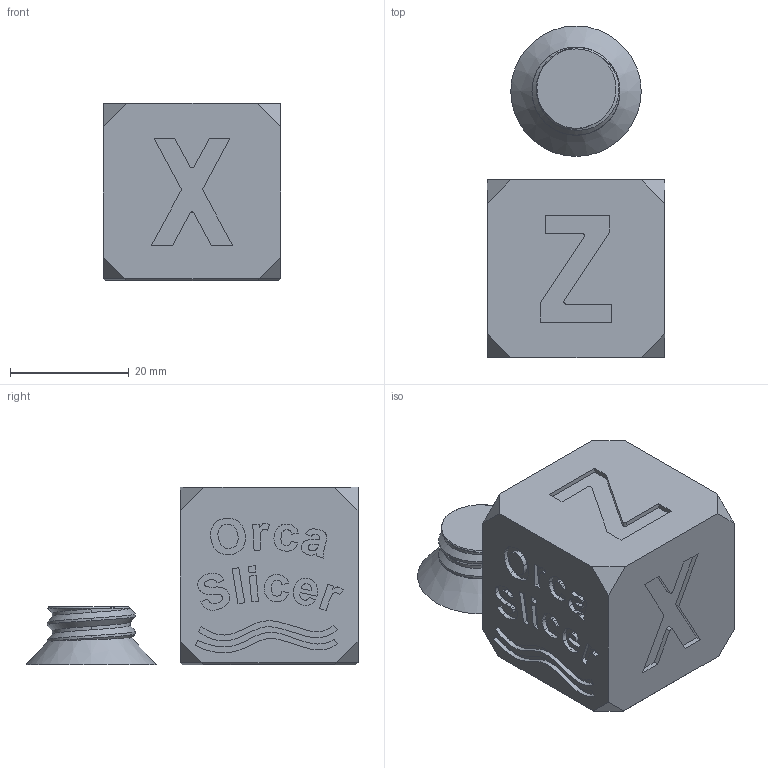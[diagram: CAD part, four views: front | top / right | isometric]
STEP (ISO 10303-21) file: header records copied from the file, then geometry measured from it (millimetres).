
FILE_DESCRIPTION(/* description */ (''),/* implementation_level */ '2;1');
FILE_NAME(/* name */ 'OrcaCube v2.step',/* time_stamp */ '2023-04-06T15:21:44+08:00',/* author */ (''),/* organization */ (''),/* preprocessor_version */ 'ST-DEVELOPER v19.2',/* originating_system */ 'Autodesk Translation Framework v12.4.0.73',/* authorisation */ '');
FILE_SCHEMA (('AUTOMOTIVE_DESIGN { 1 0 10303 214 3 1 1 }'));
Length unit declared in the file: millimetre
Products named in the file (3): OrcaCube; OrcaPlug; OrcaCube_1
Assembly tree (2 placements, depth 2):
  OrcaCube
    OrcaPlug
    OrcaCube_1
Bounding box: 30 x 56 x 30 mm (x, y, z)
Volume: 19668.9 mm3; surface area: 9191.9 mm2
Topology: 2 solids, 2 shells, 330 faces, 898 edges, 598 vertices
Faces by surface type: bspline 165, plane 137, cylinder 18, cone 8, torus 2
Full cylindrical faces by diameter (mm): 13.137 x1, 13.321 x1, 14.85 x1, 15.058 x1, 24.4 x1
Entity records: 13583 total; most frequent: CARTESIAN_POINT 6410, ORIENTED_EDGE 1796, DIRECTION 900, EDGE_CURVE 898, VERTEX_POINT 598, LINE 492, VECTOR 492, EDGE_LOOP 356
